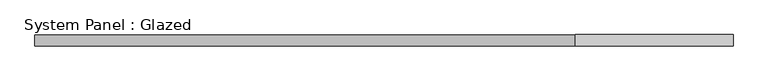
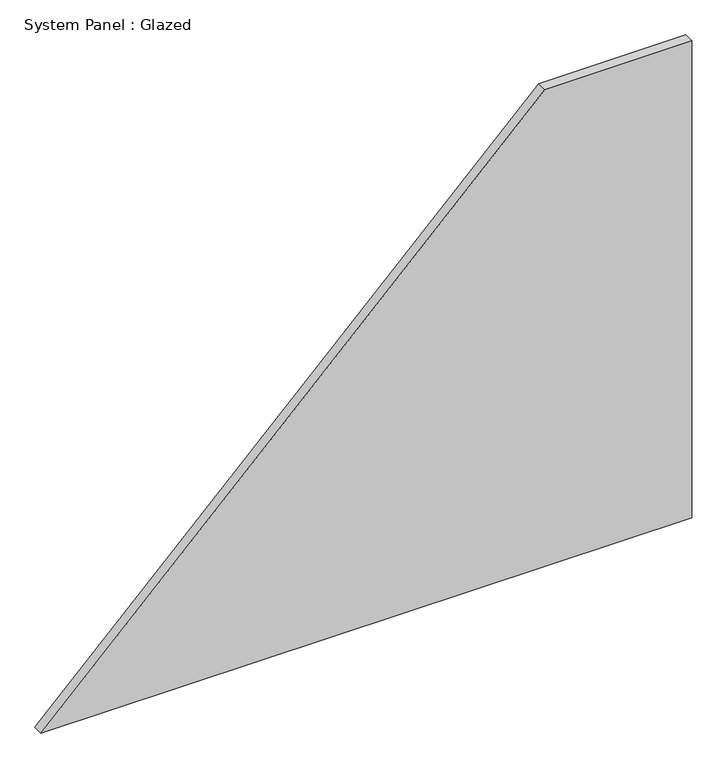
"""IFC4 building model written with IfcOpenShell, lengths in millimetres: plate geometry, System Panel : Glazed."""

from ifc_helpers import new_model, si_unit, frame, origin, place, context, project, spatial, polyline, outline, extrude, source, transform, mapped, element, save


def system_panel_glazed_45b75be5(model_context):
    return source(origin(), model_context, "Body", "SweptSolid", [
        extrude(outline(polyline([(0.0, -775.0), (0.0, 775.0), (1200.0, 775.0), (1200.0, 425.0), (0.0, -775.0)])), frame((0.0, -49.5, 0.0), z_axis=(0.0, 1.0, 0.0), x_axis=(0.0, 0.0, 1.0)), (0.0, 0.0, 1.0), 25.0),
    ])


if __name__ == "__main__":
    model = new_model("IFC4")
    model_context = context("Model", 3, world=origin())
    ifc_project = project(units=[si_unit("LENGTHUNIT", "METRE", prefix="MILLI")], contexts=[model_context])
    site = spatial("IfcSite", under=ifc_project)
    building = spatial("IfcBuilding", under=site)
    placement = place(None, origin())
    system_panel_glazed_shape = system_panel_glazed_45b75be5(model_context)
    element("IfcPlate", 1, ObjectType="System Panel : Glazed", at=placement, inside=building, context=model_context, shape_type="MappedRepresentation", body=[
        mapped(system_panel_glazed_shape, transform((0.0, 0.0, 0.0), x_axis=(1.0, 0.0, 0.0), y_axis=(0.0, 1.0, 0.0), z_axis=(0.0, 0.0, 1.0))),
    ])
    save(model, "model.ifc")
